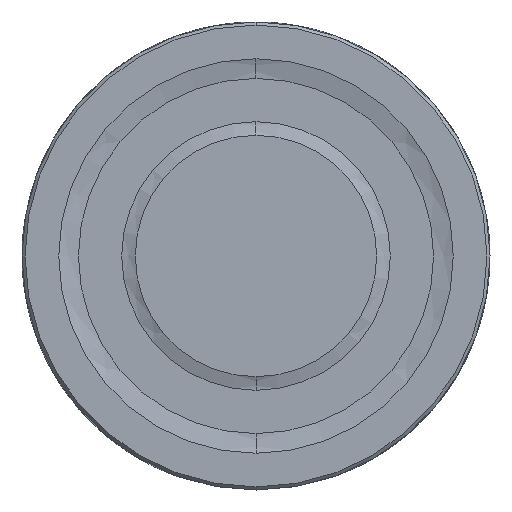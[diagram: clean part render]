
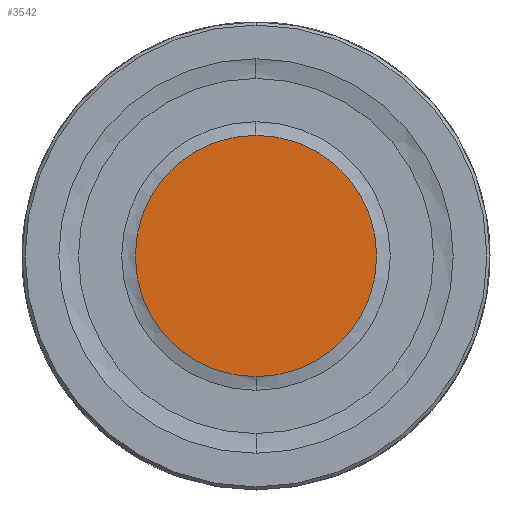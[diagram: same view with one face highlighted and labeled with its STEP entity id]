
A CAD part, front view. The second image highlights one B-rep face of the part: STEP entity #3542.
In plain terms, the highlighted planar face has unit normal (0, -1, 0).
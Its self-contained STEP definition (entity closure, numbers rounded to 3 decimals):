
#2691 = EDGE_CURVE ( 'NONE', #3108, #13931, #29646, .T. ) ;
#3108 = VERTEX_POINT ( 'NONE', #10863 ) ;
#3542 = ADVANCED_FACE ( 'NONE', ( #29926 ), #30354, .F. ) ;
#7564 = AXIS2_PLACEMENT_3D ( 'NONE', #9469, #9470, #9471 ) ;
#9469 = CARTESIAN_POINT ( 'NONE',  ( 0., -26., 0. ) ) ;
#9470 = DIRECTION ( 'NONE',  ( 0., 1., 0. ) ) ;
#9471 = DIRECTION ( 'NONE',  ( 0., 0., 1. ) ) ;
#10863 = CARTESIAN_POINT ( 'NONE',  ( 0., -26., -15.477 ) ) ;
#13808 = EDGE_LOOP ( 'NONE', ( #14870, #14871 ) ) ;
#13931 = VERTEX_POINT ( 'NONE', #25249 ) ;
#14870 = ORIENTED_EDGE ( 'NONE', *, *, #2691, .F. ) ;
#14871 = ORIENTED_EDGE ( 'NONE', *, *, #15838, .F. ) ;
#15838 = EDGE_CURVE ( 'NONE', #13931, #3108, #17566, .T. ) ;
#17566 = CIRCLE ( 'NONE', #30313, 15.477 ) ;
#25249 = CARTESIAN_POINT ( 'NONE',  ( 0., -26., 15.477 ) ) ;
#29646 = CIRCLE ( 'NONE', #7564, 15.477 ) ;
#29926 = FACE_OUTER_BOUND ( 'NONE', #13808, .T. ) ;
#30102 = AXIS2_PLACEMENT_3D ( 'NONE', #30352, #30356, #30357 ) ;
#30313 = AXIS2_PLACEMENT_3D ( 'NONE', #33366, #33368, #33370 ) ;
#30352 = CARTESIAN_POINT ( 'NONE',  ( 0., -26., 0. ) ) ;
#30354 = PLANE ( 'NONE',  #30102 ) ;
#30356 = DIRECTION ( 'NONE',  ( 0., 1., 0. ) ) ;
#30357 = DIRECTION ( 'NONE',  ( 0., 0., 1. ) ) ;
#33366 = CARTESIAN_POINT ( 'NONE',  ( 0., -26., 0. ) ) ;
#33368 = DIRECTION ( 'NONE',  ( 0., 1., 0. ) ) ;
#33370 = DIRECTION ( 'NONE',  ( 0., 0., 1. ) ) ;
